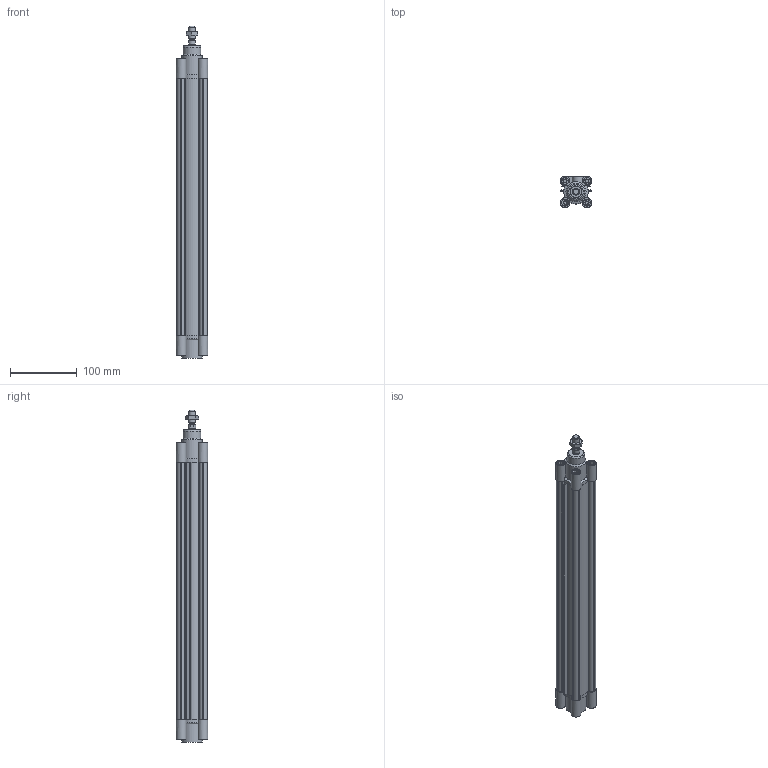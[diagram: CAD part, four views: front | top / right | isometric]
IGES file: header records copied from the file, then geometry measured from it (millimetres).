
Global section: file name: No Iges File Name specified; native system: Autodesk Inventor 2012; preprocessor: AutoDesk Inventor Iges Exporter R2012; author: pilonfr1; date: 20120128.095045; units: millimetre
Bounding box: 47 x 47 x 496.5 mm (x, y, z)
Volume: 387122 mm3; surface area: 233552.8 mm2
Topology: 5 solids, 5 shells, 316 faces, 788 edges, 522 vertices
Faces by surface type: plane 200, cylinder 54, revolution 39, cone 22, torus 1
Full cylindrical faces by diameter (mm): 8.8 x1, 10 x9, 11.5 x1, 12 x1, 26 x1, 30 x2, 32 x3
